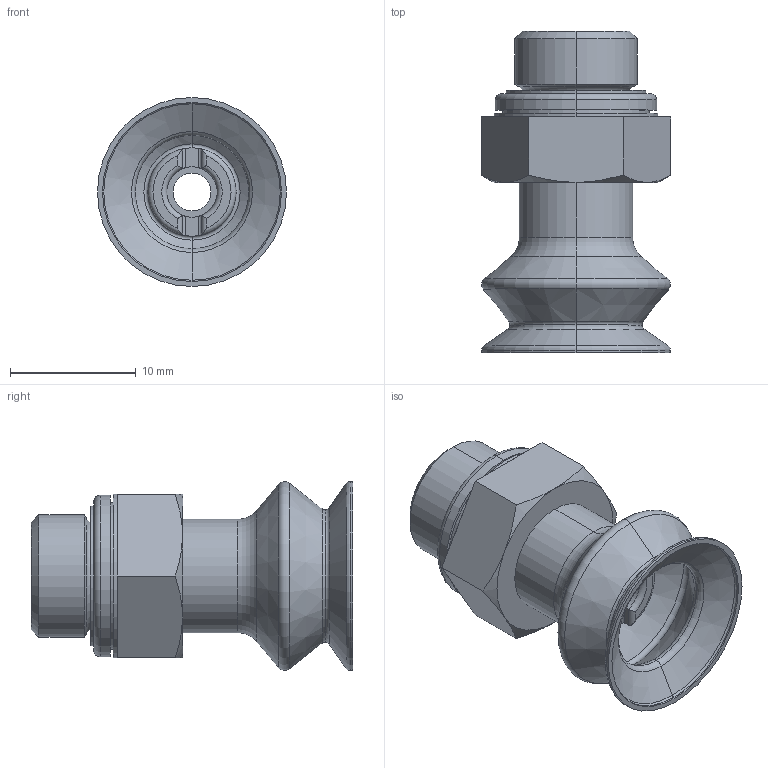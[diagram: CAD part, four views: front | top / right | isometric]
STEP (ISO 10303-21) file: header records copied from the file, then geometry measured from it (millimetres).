
FILE_DESCRIPTION (( 'STEP AP203' ), '1' );
FILE_NAME ('ZASB-15-1_8-PU.STEP', '2022-03-14T17:54:00', ( '' ), ( '' ), 'SwSTEP 2.0', 'SolidWorks 2019', '' );
FILE_SCHEMA (( 'CONFIG_CONTROL_DESIGN' ));
Length unit declared in the file: millimetre
Products named in the file (1): ZASB-15-1_8-PU
Bounding box: 15.01 x 25.5 x 15 mm (x, y, z)
Volume: 1884.1 mm3; surface area: 2091.9 mm2
Topology: 1 solids, 1 shells, 115 faces, 248 edges, 142 vertices
Faces by surface type: cylinder 32, torus 30, plane 29, cone 24
Entity records: 3275 total; most frequent: CARTESIAN_POINT 658, DIRECTION 588, ORIENTED_EDGE 496, AXIS2_PLACEMENT_3D 252, EDGE_CURVE 248, VERTEX_POINT 142, CIRCLE 136, EDGE_LOOP 124
